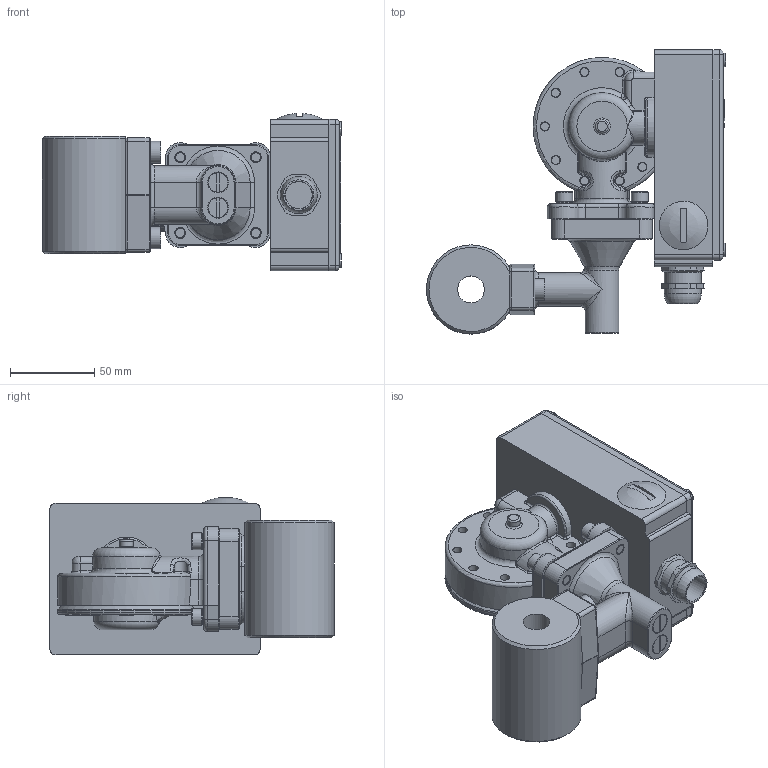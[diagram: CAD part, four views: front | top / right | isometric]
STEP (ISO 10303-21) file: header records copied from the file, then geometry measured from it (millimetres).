
FILE_DESCRIPTION(/* description */ ('Alibre Inc.'),/* implementation_level */ '2;1');
FILE_NAME(/* name */ 'export0',/* time_stamp */ '2012-10-15T13:29:21+02:00',/* author */ (''),/* organization */ (''),/* preprocessor_version */ 'ST-DEVELOPER v14',/* originating_system */ 'Alibre',/* authorisation */ '');
FILE_SCHEMA (('CONFIG_CONTROL_DESIGN'));
Length unit declared in the file: centimetre
Products named in the file (13): ID_1; ID_2; ID_3; ID_4; ID_5; ID_6; ID_7; ID_8; ID_9
Bounding box: 178 x 169.06 x 93.66 mm (x, y, z)
Volume: 528520.8 mm3; surface area: 190006.3 mm2
Topology: 29 solids, 29 shells, 1094 faces, 2578 edges, 1625 vertices
Faces by surface type: plane 540, cylinder 251, bspline 168, torus 65, cone 65, sphere 5
Full cylindrical faces by diameter (mm): 5 x23, 5.5 x18, 6 x12, 6.038 x2, 6.5 x4, 7.5 x1, 8 x18, 8.3 x9, 8.5 x2, 8.7 x2, 9.6 x4, 10 x4, 11.75 x2, 11.85 x1, 12 x2, 13 x2, 14 x2, 16 x2, 17.966 x1, 22 x2, 22.5 x4, 31 x1, 32 x1, 47 x1, 56 x2
Entity records: 34395 total; most frequent: CARTESIAN_POINT 14007, ORIENTED_EDGE 3926, DIRECTION 3183, EDGE_CURVE 1963, VERTEX_POINT 1311, AXIS2_PLACEMENT_3D 1303, EDGE_LOOP 1144, FACE_BOUND 1144
